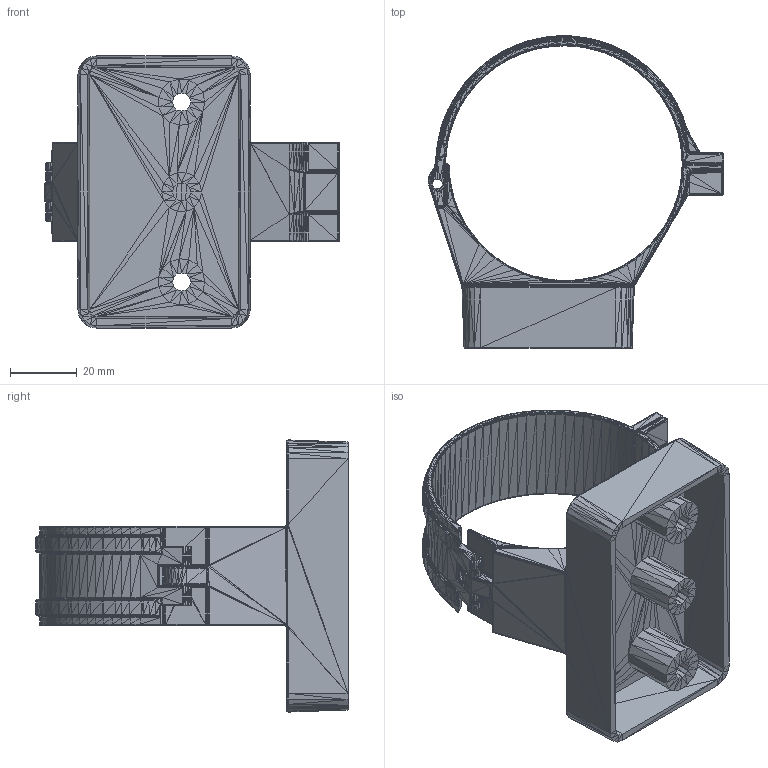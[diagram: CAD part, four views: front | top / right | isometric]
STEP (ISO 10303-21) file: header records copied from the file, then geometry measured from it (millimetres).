
FILE_DESCRIPTION((''),'2;1');
FILE_NAME('053630', '2026-01-05T10:27:23', (''), (''), 'ImageToStl.com STEP Converter','', '');
FILE_SCHEMA(('AUTOMOTIVE_DESIGN_CC2'));
Length unit declared in the file: metre
Products named in the file (1): product0
Bounding box: 88.75 x 93.73 x 81.76 mm (x, y, z)
Surface area: 34483.6 mm2 (no closed solid volume)
Topology: 0 solids, 9226 shells, 9226 faces, 27678 edges, 4604 vertices
Faces by surface type: plane 9226
Entity records: 212208 total; most frequent: DIRECTION 46132, ORIENTED_EDGE 27678, EDGE_CURVE 27678, LINE 27678, VECTOR 27678, AXIS2_PLACEMENT_3D 9227, FACE_SURFACE 9226, PLANE 9226
